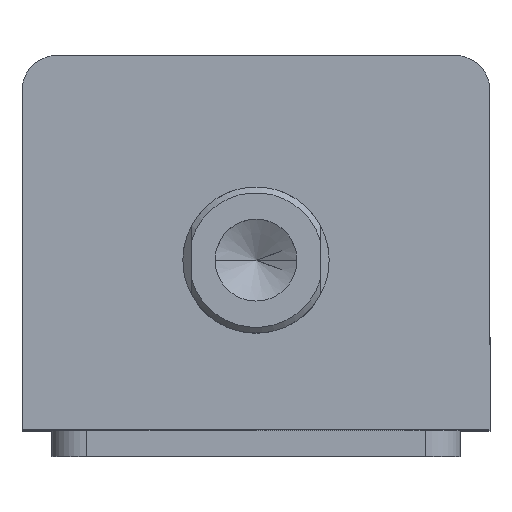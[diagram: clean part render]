
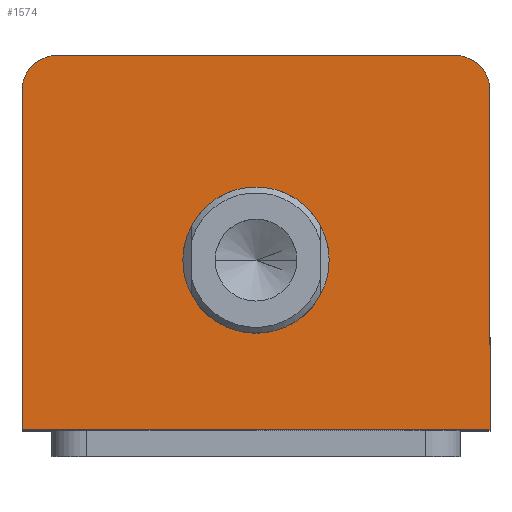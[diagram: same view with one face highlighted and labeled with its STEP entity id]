
A CAD part, top view. The second image highlights one B-rep face of the part: STEP entity #1574.
In plain terms, the highlighted planar face has unit normal (0, 0, 1).
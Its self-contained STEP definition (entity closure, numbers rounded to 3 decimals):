
#30 = VERTEX_POINT ( 'NONE', #1503 ) ;
#82 = VERTEX_POINT ( 'NONE', #1511 ) ;
#182 = DIRECTION ( 'NONE',  ( 1., 0., 0. ) ) ;
#183 = DIRECTION ( 'NONE',  ( 0., 0., 1. ) ) ;
#189 = CARTESIAN_POINT ( 'NONE',  ( 0., 0., 120. ) ) ;
#192 = PLANE ( 'NONE',  #2699 ) ;
#400 = VERTEX_POINT ( 'NONE', #1398 ) ;
#404 = VERTEX_POINT ( 'NONE', #1393 ) ;
#635 = LINE ( 'NONE', #1458, #642 ) ;
#642 = VECTOR ( 'NONE', #1381, 1000. ) ;
#673 = LINE ( 'NONE', #1306, #676 ) ;
#676 = VECTOR ( 'NONE', #1305, 1000. ) ;
#705 = LINE ( 'NONE', #1228, #708 ) ;
#708 = VECTOR ( 'NONE', #3563, 1000. ) ;
#721 = CIRCLE ( 'NONE', #2941, 6. ) ;
#734 = CIRCLE ( 'NONE', #2934, 6. ) ;
#740 = LINE ( 'NONE', #3339, #743 ) ;
#743 = VECTOR ( 'NONE', #3337, 1000. ) ;
#766 = CIRCLE ( 'NONE', #2932, 12.5 ) ;
#928 = FACE_BOUND ( 'NONE', #1825, .T. ) ;
#936 = FACE_OUTER_BOUND ( 'NONE', #1802, .T. ) ;
#1028 = EDGE_CURVE ( 'NONE', #2922, #1721, #635, .T. ) ;
#1047 = EDGE_CURVE ( 'NONE', #1721, #82, #673, .T. ) ;
#1069 = EDGE_CURVE ( 'NONE', #2310, #2307, #705, .T. ) ;
#1082 = EDGE_CURVE ( 'NONE', #82, #2310, #721, .T. ) ;
#1091 = EDGE_CURVE ( 'NONE', #2307, #30, #734, .T. ) ;
#1095 = EDGE_CURVE ( 'NONE', #30, #2922, #740, .T. ) ;
#1108 = EDGE_CURVE ( 'NONE', #404, #400, #766, .T. ) ;
#1228 = CARTESIAN_POINT ( 'NONE',  ( -40., 32., 120. ) ) ;
#1305 = DIRECTION ( 'NONE',  ( 0., 1., 0. ) ) ;
#1306 = CARTESIAN_POINT ( 'NONE',  ( 40., 32., 120. ) ) ;
#1381 = DIRECTION ( 'NONE',  ( 1., 0., 0. ) ) ;
#1393 = CARTESIAN_POINT ( 'NONE',  ( 12.5, -3., 120. ) ) ;
#1398 = CARTESIAN_POINT ( 'NONE',  ( -12.5, -3., 120. ) ) ;
#1458 = CARTESIAN_POINT ( 'NONE',  ( -40., -32., 120. ) ) ;
#1503 = CARTESIAN_POINT ( 'NONE',  ( -40., 26., 120. ) ) ;
#1511 = CARTESIAN_POINT ( 'NONE',  ( 40., 26., 120. ) ) ;
#1574 = ADVANCED_FACE ( 'NONE', ( #928, #936 ), #192, .T. ) ;
#1721 = VERTEX_POINT ( 'NONE', #2795 ) ;
#1734 = AXIS2_PLACEMENT_3D ( 'NONE', #2826, #2825, #2824 ) ;
#1802 = EDGE_LOOP ( 'NONE', ( #2005, #2004, #2003, #2002, #2001, #2000 ) ) ;
#1825 = EDGE_LOOP ( 'NONE', ( #2007, #2006 ) ) ;
#2000 = ORIENTED_EDGE ( 'NONE', *, *, #1082, .T. ) ;
#2001 = ORIENTED_EDGE ( 'NONE', *, *, #1047, .T. ) ;
#2002 = ORIENTED_EDGE ( 'NONE', *, *, #1028, .T. ) ;
#2003 = ORIENTED_EDGE ( 'NONE', *, *, #1095, .T. ) ;
#2004 = ORIENTED_EDGE ( 'NONE', *, *, #1091, .T. ) ;
#2005 = ORIENTED_EDGE ( 'NONE', *, *, #1069, .T. ) ;
#2006 = ORIENTED_EDGE ( 'NONE', *, *, #2724, .F. ) ;
#2007 = ORIENTED_EDGE ( 'NONE', *, *, #1108, .F. ) ;
#2307 = VERTEX_POINT ( 'NONE', #2900 ) ;
#2310 = VERTEX_POINT ( 'NONE', #2884 ) ;
#2498 = CIRCLE ( 'NONE', #1734, 12.5 ) ;
#2699 = AXIS2_PLACEMENT_3D ( 'NONE', #189, #183, #182 ) ;
#2724 = EDGE_CURVE ( 'NONE', #400, #404, #2498, .T. ) ;
#2795 = CARTESIAN_POINT ( 'NONE',  ( 40., -32., 120. ) ) ;
#2824 = DIRECTION ( 'NONE',  ( 1., 0., 0. ) ) ;
#2825 = DIRECTION ( 'NONE',  ( 0., 0., 1. ) ) ;
#2826 = CARTESIAN_POINT ( 'NONE',  ( 0., -3., 120. ) ) ;
#2833 = CARTESIAN_POINT ( 'NONE',  ( -40., -32., 120. ) ) ;
#2884 = CARTESIAN_POINT ( 'NONE',  ( 34., 32., 120. ) ) ;
#2900 = CARTESIAN_POINT ( 'NONE',  ( -34., 32., 120. ) ) ;
#2922 = VERTEX_POINT ( 'NONE', #2833 ) ;
#2932 = AXIS2_PLACEMENT_3D ( 'NONE', #3528, #3527, #3526 ) ;
#2934 = AXIS2_PLACEMENT_3D ( 'NONE', #3351, #3476, #3349 ) ;
#2941 = AXIS2_PLACEMENT_3D ( 'NONE', #3444, #3453, #3440 ) ;
#3337 = DIRECTION ( 'NONE',  ( 0., -1., 0. ) ) ;
#3339 = CARTESIAN_POINT ( 'NONE',  ( -40., 32., 120. ) ) ;
#3349 = DIRECTION ( 'NONE',  ( 1., 0., 0. ) ) ;
#3351 = CARTESIAN_POINT ( 'NONE',  ( -34., 26., 120. ) ) ;
#3440 = DIRECTION ( 'NONE',  ( 1., 0., 0. ) ) ;
#3444 = CARTESIAN_POINT ( 'NONE',  ( 34., 26., 120. ) ) ;
#3453 = DIRECTION ( 'NONE',  ( 0., 0., 1. ) ) ;
#3476 = DIRECTION ( 'NONE',  ( 0., 0., 1. ) ) ;
#3526 = DIRECTION ( 'NONE',  ( 1., 0., 0. ) ) ;
#3527 = DIRECTION ( 'NONE',  ( 0., 0., 1. ) ) ;
#3528 = CARTESIAN_POINT ( 'NONE',  ( 0., -3., 120. ) ) ;
#3563 = DIRECTION ( 'NONE',  ( -1., 0., 0. ) ) ;
